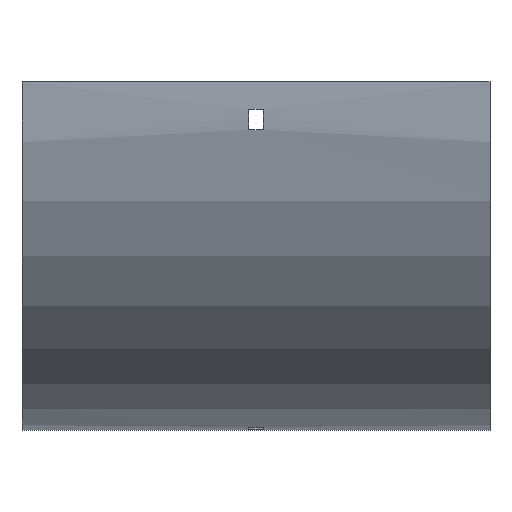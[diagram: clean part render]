
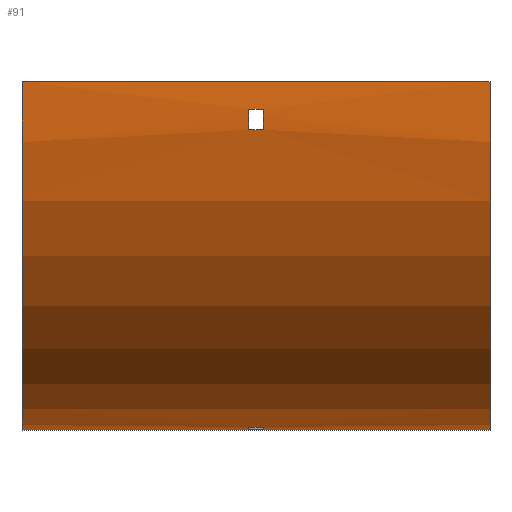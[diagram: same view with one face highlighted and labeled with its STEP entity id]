
A CAD part, front view. The second image highlights one B-rep face of the part: STEP entity #91.
In plain terms, the highlighted cylindrical face has radius 152 mm (diameter 304 mm), a partial arc.
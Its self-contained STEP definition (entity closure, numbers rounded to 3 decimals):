
#5 = DIRECTION ( 'NONE',  ( 0., 0., -1. ) ) ;
#6 = AXIS2_PLACEMENT_3D ( 'NONE', #559, #11, #738 ) ;
#11 = DIRECTION ( 'NONE',  ( 1., 0., 0. ) ) ;
#22 = AXIS2_PLACEMENT_3D ( 'NONE', #117, #749, #659 ) ;
#57 = DIRECTION ( 'NONE',  ( 0., 0., 1. ) ) ;
#58 = VERTEX_POINT ( 'NONE', #164 ) ;
#84 = VERTEX_POINT ( 'NONE', #1003 ) ;
#89 = CARTESIAN_POINT ( 'NONE',  ( 102., -52., 0. ) ) ;
#90 = VERTEX_POINT ( 'NONE', #937 ) ;
#91 = ADVANCED_FACE ( 'NONE', ( #586, #836, #943 ), #109, .T. ) ;
#101 = DIRECTION ( 'NONE',  ( 0., 0., 1. ) ) ;
#109 = CYLINDRICAL_SURFACE ( 'NONE', #474, 152. ) ;
#113 = CIRCLE ( 'NONE', #240, 152. ) ;
#117 = CARTESIAN_POINT ( 'NONE',  ( -3.25, 100., 0. ) ) ;
#125 = CARTESIAN_POINT ( 'NONE',  ( 102., 100., -152. ) ) ;
#140 = CARTESIAN_POINT ( 'NONE',  ( 102., -50.542, -21. ) ) ;
#164 = CARTESIAN_POINT ( 'NONE',  ( 3.25, 88., -151.526 ) ) ;
#173 = DIRECTION ( 'NONE',  ( 1., 0., 0. ) ) ;
#187 = VERTEX_POINT ( 'NONE', #1060 ) ;
#213 = CARTESIAN_POINT ( 'NONE',  ( -102., 100., -152. ) ) ;
#240 = AXIS2_PLACEMENT_3D ( 'NONE', #888, #979, #5 ) ;
#255 = CARTESIAN_POINT ( 'NONE',  ( -3.25, 100., 0. ) ) ;
#263 = AXIS2_PLACEMENT_3D ( 'NONE', #732, #283, #839 ) ;
#283 = DIRECTION ( 'NONE',  ( 1., 0., 0. ) ) ;
#284 = EDGE_CURVE ( 'NONE', #504, #1010, #1048, .T. ) ;
#289 = DIRECTION ( 'NONE',  ( -1., 0., 0. ) ) ;
#300 = ORIENTED_EDGE ( 'NONE', *, *, #857, .T. ) ;
#304 = ORIENTED_EDGE ( 'NONE', *, *, #930, .T. ) ;
#309 = EDGE_CURVE ( 'NONE', #187, #647, #1011, .T. ) ;
#311 = CARTESIAN_POINT ( 'NONE',  ( 3.25, 79., -150.542 ) ) ;
#316 = ORIENTED_EDGE ( 'NONE', *, *, #357, .T. ) ;
#333 = LINE ( 'NONE', #687, #1083 ) ;
#357 = EDGE_CURVE ( 'NONE', #484, #187, #456, .T. ) ;
#400 = EDGE_LOOP ( 'NONE', ( #929, #1061, #1097, #718 ) ) ;
#456 = LINE ( 'NONE', #89, #712 ) ;
#474 = AXIS2_PLACEMENT_3D ( 'NONE', #741, #486, #917 ) ;
#480 = CARTESIAN_POINT ( 'NONE',  ( 102., 79., -150.542 ) ) ;
#484 = VERTEX_POINT ( 'NONE', #761 ) ;
#486 = DIRECTION ( 'NONE',  ( -1., 0., 0. ) ) ;
#497 = DIRECTION ( 'NONE',  ( -1., 0., 0. ) ) ;
#501 = EDGE_CURVE ( 'NONE', #1072, #779, #905, .T. ) ;
#504 = VERTEX_POINT ( 'NONE', #1017 ) ;
#511 = EDGE_CURVE ( 'NONE', #826, #647, #931, .T. ) ;
#553 = DIRECTION ( 'NONE',  ( -1., 0., 0. ) ) ;
#559 = CARTESIAN_POINT ( 'NONE',  ( -102., 100., 0. ) ) ;
#562 = EDGE_CURVE ( 'NONE', #58, #756, #787, .T. ) ;
#567 = CARTESIAN_POINT ( 'NONE',  ( 3.25, -51.526, -12. ) ) ;
#586 = FACE_OUTER_BOUND ( 'NONE', #725, .T. ) ;
#596 = DIRECTION ( 'NONE',  ( 1., 0., 0. ) ) ;
#599 = ORIENTED_EDGE ( 'NONE', *, *, #309, .T. ) ;
#608 = CARTESIAN_POINT ( 'NONE',  ( 102., -51.526, -12. ) ) ;
#636 = EDGE_LOOP ( 'NONE', ( #1102, #304, #802, #300 ) ) ;
#647 = VERTEX_POINT ( 'NONE', #213 ) ;
#648 = LINE ( 'NONE', #480, #769 ) ;
#659 = DIRECTION ( 'NONE',  ( 0., 1., 0. ) ) ;
#687 = CARTESIAN_POINT ( 'NONE',  ( 102., 88., -151.526 ) ) ;
#712 = VECTOR ( 'NONE', #825, 1000. ) ;
#718 = ORIENTED_EDGE ( 'NONE', *, *, #740, .F. ) ;
#725 = EDGE_LOOP ( 'NONE', ( #599, #1148, #849, #316 ) ) ;
#732 = CARTESIAN_POINT ( 'NONE',  ( 102., 100., 0. ) ) ;
#738 = DIRECTION ( 'NONE',  ( 0., 0., -1. ) ) ;
#740 = EDGE_CURVE ( 'NONE', #779, #58, #333, .T. ) ;
#741 = CARTESIAN_POINT ( 'NONE',  ( 102., 100., 0. ) ) ;
#749 = DIRECTION ( 'NONE',  ( 1., 0., 0. ) ) ;
#751 = AXIS2_PLACEMENT_3D ( 'NONE', #793, #497, #57 ) ;
#756 = VERTEX_POINT ( 'NONE', #311 ) ;
#761 = CARTESIAN_POINT ( 'NONE',  ( 102., -52., 0. ) ) ;
#769 = VECTOR ( 'NONE', #289, 1000. ) ;
#776 = DIRECTION ( 'NONE',  ( -1., 0., 0. ) ) ;
#779 = VERTEX_POINT ( 'NONE', #785 ) ;
#785 = CARTESIAN_POINT ( 'NONE',  ( -3.25, 88., -151.526 ) ) ;
#787 = CIRCLE ( 'NONE', #751, 152. ) ;
#793 = CARTESIAN_POINT ( 'NONE',  ( 3.25, 100., 0. ) ) ;
#802 = ORIENTED_EDGE ( 'NONE', *, *, #284, .T. ) ;
#824 = EDGE_CURVE ( 'NONE', #84, #90, #1026, .T. ) ;
#825 = DIRECTION ( 'NONE',  ( -1., 0., 0. ) ) ;
#826 = VERTEX_POINT ( 'NONE', #939 ) ;
#836 = FACE_BOUND ( 'NONE', #636, .T. ) ;
#839 = DIRECTION ( 'NONE',  ( 0., 0., -1. ) ) ;
#846 = AXIS2_PLACEMENT_3D ( 'NONE', #255, #553, #101 ) ;
#849 = ORIENTED_EDGE ( 'NONE', *, *, #1103, .F. ) ;
#857 = EDGE_CURVE ( 'NONE', #1010, #84, #113, .T. ) ;
#888 = CARTESIAN_POINT ( 'NONE',  ( 3.25, 100., 0. ) ) ;
#905 = CIRCLE ( 'NONE', #22, 152. ) ;
#917 = DIRECTION ( 'NONE',  ( 0., 0., 1. ) ) ;
#920 = VECTOR ( 'NONE', #173, 1000. ) ;
#929 = ORIENTED_EDGE ( 'NONE', *, *, #501, .F. ) ;
#930 = EDGE_CURVE ( 'NONE', #90, #504, #934, .T. ) ;
#931 = LINE ( 'NONE', #125, #1098 ) ;
#934 = CIRCLE ( 'NONE', #846, 152. ) ;
#937 = CARTESIAN_POINT ( 'NONE',  ( -3.25, -50.542, -21. ) ) ;
#939 = CARTESIAN_POINT ( 'NONE',  ( 102., 100., -152. ) ) ;
#943 = FACE_BOUND ( 'NONE', #400, .T. ) ;
#976 = VECTOR ( 'NONE', #1135, 1000. ) ;
#979 = DIRECTION ( 'NONE',  ( 1., 0., 0. ) ) ;
#1003 = CARTESIAN_POINT ( 'NONE',  ( 3.25, -50.542, -21. ) ) ;
#1010 = VERTEX_POINT ( 'NONE', #567 ) ;
#1011 = CIRCLE ( 'NONE', #6, 152. ) ;
#1017 = CARTESIAN_POINT ( 'NONE',  ( -3.25, -51.526, -12. ) ) ;
#1026 = LINE ( 'NONE', #140, #976 ) ;
#1041 = CARTESIAN_POINT ( 'NONE',  ( -3.25, 79., -150.542 ) ) ;
#1048 = LINE ( 'NONE', #608, #920 ) ;
#1060 = CARTESIAN_POINT ( 'NONE',  ( -102., -52., 0. ) ) ;
#1061 = ORIENTED_EDGE ( 'NONE', *, *, #1096, .F. ) ;
#1072 = VERTEX_POINT ( 'NONE', #1041 ) ;
#1083 = VECTOR ( 'NONE', #596, 1000. ) ;
#1086 = CIRCLE ( 'NONE', #263, 152. ) ;
#1096 = EDGE_CURVE ( 'NONE', #756, #1072, #648, .T. ) ;
#1097 = ORIENTED_EDGE ( 'NONE', *, *, #562, .F. ) ;
#1098 = VECTOR ( 'NONE', #776, 1000. ) ;
#1102 = ORIENTED_EDGE ( 'NONE', *, *, #824, .T. ) ;
#1103 = EDGE_CURVE ( 'NONE', #484, #826, #1086, .T. ) ;
#1135 = DIRECTION ( 'NONE',  ( -1., 0., 0. ) ) ;
#1148 = ORIENTED_EDGE ( 'NONE', *, *, #511, .F. ) ;
